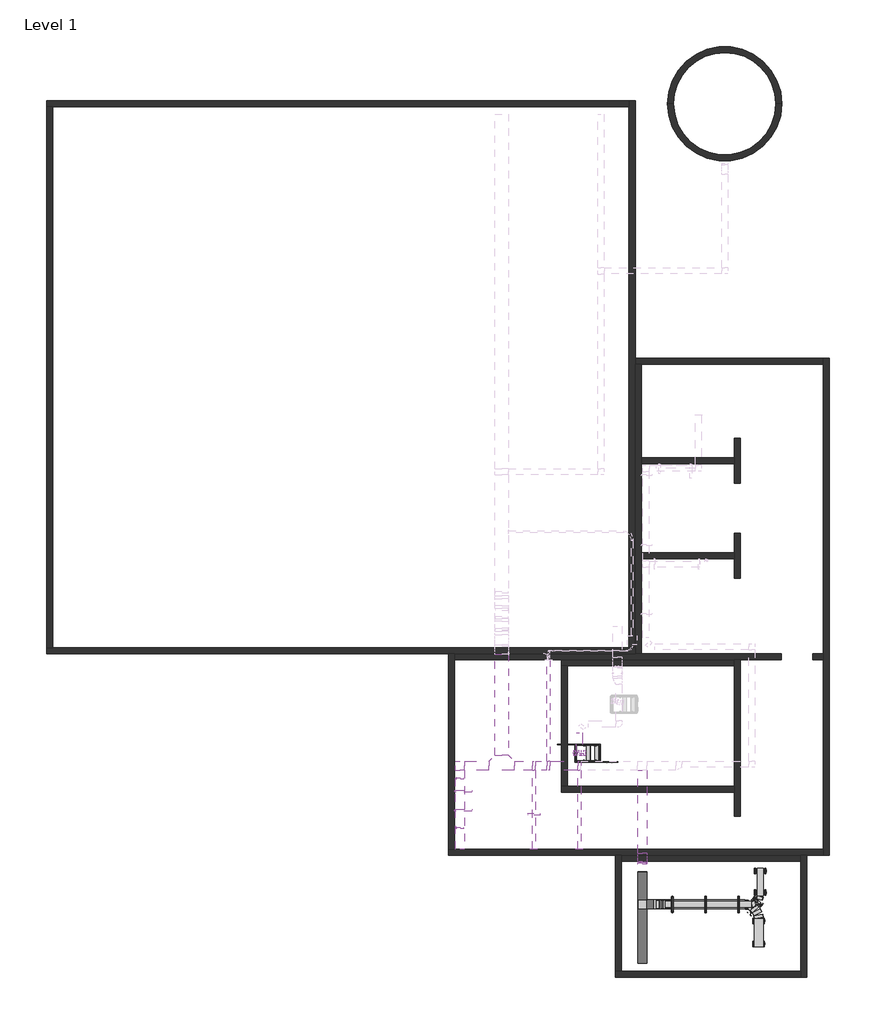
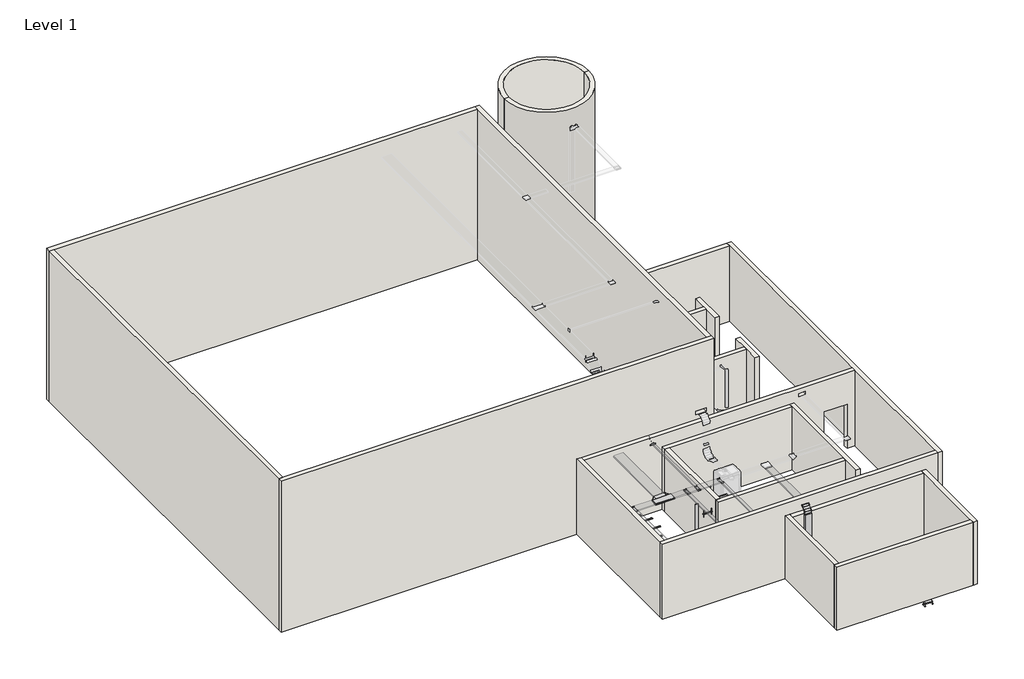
# One storey, part 1 of 2: 24 walls, 21 electric appliances, 20 cable carrier segments, 14 cable carrier fittings.
"""IFC4 building model written with IfcOpenShell, lengths in millimetres."""

from ifc_helpers import new_model, si_unit, point, frame, frame_2d, origin, origin_with_axes, place, context, project, spatial, polyline, circle_curve, trimmed, segment, composite_curve, outline, extrude, faceted_brep, transform, mapped, element, save
from components import cable_carrier_fitting_1d7cee85, cable_carrier_fitting_3a409af5, cable_carrier_fitting_f272e647, cable_carrier_fitting_cf0266b7, cable_carrier_fitting_ab9d27d4, cable_carrier_fitting_56b4656a, inside_b042d5d7, outside_59f74532, standard_9af1a614, electric_appliance_624bd925, standard_51789b41, standard_970344b8, standard_d35a98ab, standard_966c1fd9, standard_a21dcf37, standard_b50ad245, standard_c336d6d9, standard_08e3862d

model = new_model("IFC4")

# Units and contexts
model_context = context("Model", 3, world=origin())
ifc_project = project(units=[si_unit("LENGTHUNIT", "METRE", prefix="MILLI")], contexts=[model_context])

# Site, building, storey
site = spatial("IfcSite", under=ifc_project)
building = spatial("IfcBuilding", under=site)
storey = spatial("IfcBuildingStorey", under=building, Name="Level 1", Elevation=0.0)

# Cable carrier fittings
placement = place(None, origin())
cable_carrier_fitting_shape = cable_carrier_fitting_1d7cee85(model_context)
element("IfcCableCarrierFitting", 1, ObjectType="Tee-Cablofil-Wire_Mesh_Cable_Tray : EZ T 90 KIT", at=placement, inside=storey, context=model_context, shape_type="MappedRepresentation", body=[
    mapped(cable_carrier_fitting_shape, transform((2783.9308637, -7616.7461531, 1219.2), x_axis=(0.0, 1.0, 0.0), y_axis=(-1.0, 0.0, 0.0), z_axis=(0.0, 0.0, 1.0))),
])
cable_carrier_fitting_2_shape = cable_carrier_fitting_3a409af5(model_context)
element("IfcCableCarrierFitting", 2, ObjectType="Tee-Cablofil-Wire_Mesh_Cable_Tray : EZ T 90 KIT", at=placement, inside=storey, context=model_context, shape_type="MappedRepresentation", body=[
    mapped(cable_carrier_fitting_2_shape, transform((667.4791948, -2938.9704012, 3352.8), x_axis=(1.0, 0.0, 0.0), y_axis=(0.0, 1.0, 0.0), z_axis=(0.0, 0.0, 1.0))),
])
element("IfcCableCarrierFitting", 3, ObjectType="Tee-Cablofil-Wire_Mesh_Cable_Tray : EZ T 90 KIT", at=placement, inside=storey, context=model_context, shape_type="MappedRepresentation", body=[
    mapped(cable_carrier_fitting_2_shape, transform((-867.0453689, -2938.9704012, 3352.8), x_axis=(1.0, 0.0, 0.0), y_axis=(0.0, 1.0, 0.0), z_axis=(0.0, 0.0, 1.0))),
])
element("IfcCableCarrierFitting", 4, ObjectType="Tee-Cablofil-Wire_Mesh_Cable_Tray : EZ T 90 KIT", at=placement, inside=storey, context=model_context, shape_type="MappedRepresentation", body=[
    mapped(cable_carrier_fitting_2_shape, transform((-379.897722, -2938.9704012, 3352.8), x_axis=(-1.0, 0.0, 0.0), y_axis=(0.0, -1.0, 0.0), z_axis=(0.0, 0.0, 1.0))),
])
cable_carrier_fitting_3_shape = cable_carrier_fitting_f272e647(model_context)
element("IfcCableCarrierFitting", 5, ObjectType="Tee-Cablofil-Wire_Mesh_Cable_Tray : Y Junctions", at=placement, inside=storey, context=model_context, shape_type="MappedRepresentation", body=[
    mapped(cable_carrier_fitting_3_shape, transform((-1955.469197, -2938.9704012, 3352.8), x_axis=(-1.0, 0.0, 0.0), y_axis=(0.0, -1.0, 0.0), z_axis=(0.0, 0.0, 1.0))),
])
cable_carrier_fitting_4_shape = cable_carrier_fitting_cf0266b7(model_context)
element("IfcCableCarrierFitting", 6, ObjectType="Bend-Horizontal-Cablofil-Wire_Mesh_Cable_Tray : EZ T 90 KIT", at=placement, inside=storey, context=model_context, shape_type="MappedRepresentation", body=[
    mapped(cable_carrier_fitting_4_shape, transform((-3371.1208052, -2938.9704012, 3352.8), x_axis=(-1.0, 0.0, 0.0), y_axis=(0.0, -1.0, 0.0), z_axis=(0.0, 0.0, 1.0))),
])
cable_carrier_fitting_5_shape = cable_carrier_fitting_ab9d27d4(model_context)
element("IfcCableCarrierFitting", 7, ObjectType="Bend-Horizontal-Cablofil-Wire_Mesh_Cable_Tray : Faslock", at=placement, inside=storey, context=model_context, shape_type="MappedRepresentation", body=[
    mapped(cable_carrier_fitting_5_shape, transform((6768.8294107, -7616.7461531, -889.0), x_axis=(1.0, 0.0, 0.0), y_axis=(0.0, 1.0, 0.0), z_axis=(0.0, 0.0, 1.0))),
])
cable_carrier_fitting_6_shape = cable_carrier_fitting_56b4656a(model_context)
element("IfcCableCarrierFitting", 8, ObjectType="Bend-Horizontal-Cablofil-Wire_Mesh_Cable_Tray : Faslock", at=placement, inside=storey, context=model_context, shape_type="MappedRepresentation", body=[
    mapped(cable_carrier_fitting_6_shape, transform((6718.0294107, -7616.7461531, -990.6), x_axis=(0.0, 1.0, 0.0), y_axis=(-1.0, 0.0, 0.0), z_axis=(0.0, 0.0, 1.0))),
])
inside_shape = inside_b042d5d7(model_context)
element("IfcCableCarrierFitting", 9, ObjectType="Bend-Vertical-Cablofil-Wire_Mesh_Cable_Tray : Inside", at=placement, inside=storey, context=model_context, shape_type="MappedRepresentation", body=[
    mapped(inside_shape, transform((2783.9308637, -6238.6609985, 1219.2), x_axis=(0.0, 1.0, 0.0), y_axis=(0.0, 0.0, 1.0), z_axis=(1.0, 0.0, 0.0))),
])
element("IfcCableCarrierFitting", 10, ObjectType="Bend-Vertical-Cablofil-Wire_Mesh_Cable_Tray : Inside", at=placement, inside=storey, context=model_context, shape_type="MappedRepresentation", body=[
    mapped(inside_shape, transform((3517.6294107, -7616.7461531, -990.6), x_axis=(0.0, 0.0, -1.0), y_axis=(1.0, 0.0, 0.0), z_axis=(0.0, -1.0, 0.0))),
])
outside_shape = outside_59f74532(model_context)
element("IfcCableCarrierFitting", 11, ObjectType="Bend-Vertical-Cablofil-Wire_Mesh_Cable_Tray : Outside", at=placement, inside=storey, context=model_context, shape_type="MappedRepresentation", body=[
    mapped(outside_shape, transform((3517.6294107, -7616.7461531, 1219.2), x_axis=(1.0, 0.0, 0.0), y_axis=(0.0, 0.0, -1.0), z_axis=(0.0, 1.0, 0.0))),
])
element("IfcCableCarrierFitting", 12, ObjectType="Bend-Vertical-Cablofil-Wire_Mesh_Cable_Tray : Outside", at=placement, inside=storey, context=model_context, shape_type="MappedRepresentation", body=[
    mapped(outside_shape, transform((2783.9308637, -6238.6609985, 3352.8), x_axis=(0.0, -1.0, 0.0), y_axis=(0.0, 0.0, -1.0), z_axis=(1.0, 0.0, 0.0))),
])
standard_shape = standard_9af1a614(model_context)
element("IfcCableCarrierFitting", 13, ObjectType="End-Cablofil-Wire_Mesh_Cable_Tray : Standard", at=placement, inside=storey, context=model_context, shape_type="MappedRepresentation", body=[
    mapped(standard_shape, transform((-867.0453689, -5757.8717985, 3352.8), x_axis=(0.0, -1.0, 0.0), y_axis=(1.0, 0.0, 0.0), z_axis=(0.0, 0.0, 1.0))),
])
element("IfcCableCarrierFitting", 14, ObjectType="End-Cablofil-Wire_Mesh_Cable_Tray : Standard", at=placement, inside=storey, context=model_context, shape_type="MappedRepresentation", body=[
    mapped(standard_shape, transform((667.4791948, -5757.8717985, 3352.8), x_axis=(0.0, -1.0, 0.0), y_axis=(1.0, 0.0, 0.0), z_axis=(0.0, 0.0, 1.0))),
])

# Cable carrier segments
element("IfcCableCarrierSegment", 15, ObjectType="Cable_Tray-Wire_Mesh-Cablofil", at=placement, inside=storey, context=model_context, shape_type="SweptSolid", body=[
    extrude(outline(polyline([(-2387.269197, -2786.5704012), (-2387.269197, -3091.3704012), (-3215.5458052, -3091.3704012), (-3215.5458052, -2786.5704012), (-2387.269197, -2786.5704012)])), frame((0.0, 0.0, 3327.4), z_axis=(0.0, 0.0, 1.0), x_axis=(1.0, 0.0, 0.0)), (0.0, 0.0, 1.0), 50.8),
])
element("IfcCableCarrierSegment", 16, ObjectType="Cable_Tray-Wire_Mesh-Cablofil", at=placement, inside=storey, context=model_context, shape_type="SweptSolid", body=[
    extrude(outline(polyline([(2631.5308637, -3094.5454012), (2936.3308637, -3094.5454012), (2936.3308637, -5888.5243748), (2631.5308637, -5888.5243748), (2631.5308637, -3094.5454012)])), frame((0.0, 0.0, 3327.4), z_axis=(0.0, 0.0, 1.0), x_axis=(1.0, 0.0, 0.0)), (0.0, 0.0, 1.0), 50.8),
])
element("IfcCableCarrierSegment", 17, ObjectType="Cable_Tray-Wire_Mesh-Cablofil", at=placement, inside=storey, context=model_context, shape_type="SweptSolid", body=[
    extrude(outline(polyline([(2631.5308637, -7772.3211531), (2936.3308637, -7772.3211531), (2936.3308637, -9600.4861531), (2631.5308637, -9600.4861531), (2631.5308637, -7772.3211531)])), frame((0.0, 0.0, 1193.8), z_axis=(0.0, 0.0, 1.0), x_axis=(1.0, 0.0, 0.0)), (0.0, 0.0, 1.0), 50.8),
])
element("IfcCableCarrierSegment", 18, ObjectType="Cable_Tray-Wire_Mesh-Cablofil", at=placement, inside=storey, context=model_context, shape_type="SweptSolid", body=[
    extrude(outline(polyline([(2631.5308637, -6213.2609985), (2936.3308637, -6213.2609985), (2936.3308637, -6264.0609985), (2631.5308637, -6264.0609985), (2631.5308637, -6213.2609985)])), frame((0.0, 0.0, 1518.5366237), z_axis=(0.0, 0.0, 1.0), x_axis=(1.0, 0.0, 0.0)), (0.0, 0.0, 1.0), 1484.1267527),
])
element("IfcCableCarrierSegment", 19, ObjectType="Cable_Tray-Wire_Mesh-Cablofil", at=placement, inside=storey, context=model_context, shape_type="SweptSolid", body=[
    extrude(outline(polyline([(2939.5058637, -7769.1461531), (2939.5058637, -7464.3461531), (3167.4927871, -7464.3461531), (3167.4927871, -7769.1461531), (2939.5058637, -7769.1461531)])), frame((0.0, 0.0, 1193.8), z_axis=(0.0, 0.0, 1.0), x_axis=(1.0, 0.0, 0.0)), (0.0, 0.0, 1.0), 50.8),
])
element("IfcCableCarrierSegment", 20, ObjectType="Cable_Tray-Wire_Mesh-Cablofil", at=placement, inside=storey, context=model_context, shape_type="SweptSolid", body=[
    extrude(outline(polyline([(2631.5308637, -6537.9976221), (2936.3308637, -6537.9976221), (2936.3308637, -7461.1711531), (2631.5308637, -7461.1711531), (2631.5308637, -6537.9976221)])), frame((0.0, 0.0, 1193.8), z_axis=(0.0, 0.0, 1.0), x_axis=(1.0, 0.0, 0.0)), (0.0, 0.0, 1.0), 50.8),
])
element("IfcCableCarrierSegment", 21, ObjectType="Cable_Tray-Wire_Mesh-Cablofil", at=placement, inside=storey, context=model_context, shape_type="SweptSolid", body=[
    extrude(outline(polyline([(3492.2294107, -7769.1461531), (3492.2294107, -7464.3461531), (3543.0294107, -7464.3461531), (3543.0294107, -7769.1461531), (3492.2294107, -7769.1461531)])), frame((0.0, 0.0, -691.2633763), z_axis=(0.0, 0.0, 1.0), x_axis=(1.0, 0.0, 0.0)), (0.0, 0.0, 1.0), 1560.3267527),
])
element("IfcCableCarrierSegment", 22, ObjectType="Cable_Tray-Wire_Mesh-Cablofil", at=placement, inside=storey, context=model_context, shape_type="SweptSolid", body=[
    extrude(outline(polyline([(565.8791948, -1828.5528087), (769.0791948, -1828.5528087), (769.0791948, -2603.8266808), (565.8791948, -2603.8266808), (565.8791948, -1828.5528087)])), frame((0.0, 0.0, 2139.95), z_axis=(0.0, 0.0, 1.0), x_axis=(1.0, 0.0, 0.0)), (0.0, 0.0, 1.0), 50.8),
])
element("IfcCableCarrierSegment", 23, ObjectType="Cable_Tray-Wire_Mesh-Cablofil", at=placement, inside=storey, context=model_context, shape_type="SweptSolid", body=[
    extrude(outline(polyline([(-3523.5208052, -3094.5454012), (-3218.7208052, -3094.5454012), (-3218.7208052, -5760.3609985), (-3523.5208052, -5760.3609985), (-3523.5208052, -3094.5454012)])), frame((0.0, 0.0, 3327.4), z_axis=(0.0, 0.0, 1.0), x_axis=(1.0, 0.0, 0.0)), (0.0, 0.0, 1.0), 50.8),
])
element("IfcCableCarrierSegment", 24, ObjectType="Cable_Tray-Wire_Mesh-Cablofil", at=placement, inside=storey, context=model_context, shape_type="SweptSolid", body=[
    extrude(outline(polyline([(616.6791948, -3094.5454012), (718.2791948, -3094.5454012), (718.2791948, -5757.8717985), (616.6791948, -5757.8717985), (616.6791948, -3094.5454012)])), frame((0.0, 0.0, 3327.4), z_axis=(0.0, 0.0, 1.0), x_axis=(1.0, 0.0, 0.0)), (0.0, 0.0, 1.0), 50.8),
])
element("IfcCableCarrierSegment", 25, ObjectType="Cable_Tray-Wire_Mesh-Cablofil", at=placement, inside=storey, context=model_context, shape_type="SweptSolid", body=[
    extrude(outline(polyline([(-917.8453689, -3094.5454012), (-816.2453689, -3094.5454012), (-816.2453689, -5757.8717985), (-917.8453689, -5757.8717985), (-917.8453689, -3094.5454012)])), frame((0.0, 0.0, 3327.4), z_axis=(0.0, 0.0, 1.0), x_axis=(1.0, 0.0, 0.0)), (0.0, 0.0, 1.0), 50.8),
])
element("IfcCableCarrierSegment", 26, ObjectType="Cable_Tray-Wire_Mesh-Cablofil", at=placement, inside=storey, context=model_context, shape_type="SweptSolid", body=[
    extrude(outline(polyline([(-433.872722, -2786.5704012), (-433.872722, -3091.3704012), (-813.0703689, -3091.3704012), (-813.0703689, -2786.5704012), (-433.872722, -2786.5704012)])), frame((0.0, 0.0, 3327.4), z_axis=(0.0, 0.0, 1.0), x_axis=(1.0, 0.0, 0.0)), (0.0, 0.0, 1.0), 50.8),
])
element("IfcCableCarrierSegment", 27, ObjectType="Cable_Tray-Wire_Mesh-Cablofil", at=placement, inside=storey, context=model_context, shape_type="SweptSolid", body=[
    extrude(outline(polyline([(-1726.869197, -2583.3704012), (-2184.069197, -2583.3704012), (-2184.069197, 823.7023779), (-1726.869197, 823.7023779), (-1726.869197, -2583.3704012)])), frame((0.0, 0.0, 3327.4), z_axis=(0.0, 0.0, 1.0), x_axis=(1.0, 0.0, 0.0)), (0.0, 0.0, 1.0), 50.8),
])
element("IfcCableCarrierSegment", 28, ObjectType="Cable_Tray-Wire_Mesh-Cablofil", at=placement, inside=storey, context=model_context, shape_type="SweptSolid", body=[
    extrude(outline(polyline([(-921.0203689, -2786.5704012), (-921.0203689, -3091.3704012), (-1523.669197, -3091.3704012), (-1523.669197, -2786.5704012), (-921.0203689, -2786.5704012)])), frame((0.0, 0.0, 3327.4), z_axis=(0.0, 0.0, 1.0), x_axis=(1.0, 0.0, 0.0)), (0.0, 0.0, 1.0), 50.8),
])
element("IfcCableCarrierSegment", 29, ObjectType="Cable_Tray-Wire_Mesh-Cablofil", at=placement, inside=storey, context=model_context, shape_type="SweptSolid", body=[
    extrude(outline(polyline([(3564.0714597, -7718.3461531), (3564.0714597, -7515.1461531), (6470.9532828, -7515.1461531), (6470.9532828, -7718.3461531), (3564.0714597, -7718.3461531)])), frame((0.0, 0.0, -914.4), z_axis=(0.0, 0.0, 1.0), x_axis=(1.0, 0.0, 0.0)), (0.0, 0.0, 1.0), 50.8),
])
element("IfcCableCarrierSegment", 30, ObjectType="Cable_Tray-Wire_Mesh-Cablofil", at=placement, inside=storey, context=model_context, shape_type="SweptSolid", body=[
    extrude(outline(polyline([(6870.4294107, -7318.8700252), (6667.2294107, -7318.8700252), (6667.2294107, -6397.5461531), (6870.4294107, -6397.5461531), (6870.4294107, -7318.8700252)])), frame((0.0, 0.0, -914.4), z_axis=(0.0, 0.0, 1.0), x_axis=(1.0, 0.0, 0.0)), (0.0, 0.0, 1.0), 50.8),
])
element("IfcCableCarrierSegment", 31, ObjectType="Cable_Tray-Wire_Mesh-Cablofil", at=placement, inside=storey, context=model_context, shape_type="SweptSolid", body=[
    extrude(outline(polyline([(3816.9660344, -7769.1461531), (3816.9660344, -7464.3461531), (6240.8927871, -7464.3461531), (6240.8927871, -7769.1461531), (3816.9660344, -7769.1461531)])), frame((0.0, 0.0, -1016.0), z_axis=(0.0, 0.0, 1.0), x_axis=(1.0, 0.0, 0.0)), (0.0, 0.0, 1.0), 50.8),
])
element("IfcCableCarrierSegment", 32, ObjectType="Cable_Tray-Wire_Mesh-Cablofil", at=placement, inside=storey, context=model_context, shape_type="SweptSolid", body=[
    extrude(outline(polyline([(6565.6294107, -8093.8827767), (6870.4294107, -8093.8827767), (6870.4294107, -9039.1461531), (6565.6294107, -9039.1461531), (6565.6294107, -8093.8827767)])), frame((0.0, 0.0, -1016.0), z_axis=(0.0, 0.0, 1.0), x_axis=(1.0, 0.0, 0.0)), (0.0, 0.0, 1.0), 50.8),
])
element("IfcCableCarrierSegment", 33, ObjectType="Cable_Tray-Wire_Mesh-Cablofil", at=placement, inside=storey, context=model_context, shape_type="SweptSolid", body=[
    extrude(outline(polyline([(-329.097722, -2783.3954012), (-430.697722, -2783.3954012), (-430.697722, 637.9498015), (-329.097722, 637.9498015), (-329.097722, -2783.3954012)])), frame((0.0, 0.0, 3327.4), z_axis=(0.0, 0.0, 1.0), x_axis=(1.0, 0.0, 0.0)), (0.0, 0.0, 1.0), 50.8),
])
element("IfcCableCarrierSegment", 34, ObjectType="Cable_Tray-Wire_Mesh-Cablofil", at=placement, inside=storey, context=model_context, shape_type="SweptSolid", body=[
    extrude(outline(polyline([(613.5041948, -2786.5704012), (613.5041948, -3091.3704012), (-325.922722, -3091.3704012), (-325.922722, -2786.5704012), (613.5041948, -2786.5704012)])), frame((0.0, 0.0, 3327.4), z_axis=(0.0, 0.0, 1.0), x_axis=(1.0, 0.0, 0.0)), (0.0, 0.0, 1.0), 50.8),
])

# Electric appliances
electric_appliance_shape = electric_appliance_624bd925(model_context)
element("IfcElectricAppliance", 35, ObjectType="Cabinet-Network-Ortronics-Preconfigured-Mighty_Mo : 42 RU x 24\" W x 36\" D", at=placement, inside=storey, context=model_context, shape_type="MappedRepresentation", body=[
    mapped(electric_appliance_shape, transform((945.7742948, -2514.1870302, 0.0), x_axis=(0.0, 1.0000000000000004, 0.0), y_axis=(-1.0000000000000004, 0.0, 0.0), z_axis=(0.0, 0.0, 1.0))),
])
standard_2_shape = standard_51789b41(model_context)
element("IfcElectricAppliance", 36, ObjectType="Bracket-Cross_Bar-Cablofil : Standard", at=placement, inside=storey, context=model_context, shape_type="MappedRepresentation", body=[
    mapped(standard_2_shape, transform((4919.9420629, -7616.7461531, -787.4), x_axis=(0.0, -1.0, 0.0), y_axis=(-1.0, 0.0, 0.0), z_axis=(0.0, 0.0, -1.0))),
])
element("IfcElectricAppliance", 37, ObjectType="Bracket-Cross_Bar-Cablofil : Standard", at=placement, inside=storey, context=model_context, shape_type="MappedRepresentation", body=[
    mapped(standard_2_shape, transform((3802.3420629, -7616.7461531, -787.4), x_axis=(0.0, -1.0, 0.0), y_axis=(-1.0, 0.0, 0.0), z_axis=(0.0, 0.0, -1.0))),
])
element("IfcElectricAppliance", 38, ObjectType="Bracket-Cross_Bar-Cablofil : Standard", at=placement, inside=storey, context=model_context, shape_type="MappedRepresentation", body=[
    mapped(standard_2_shape, transform((6037.5420629, -7616.7461531, -787.4), x_axis=(0.0, -1.0, 0.0), y_axis=(-1.0, 0.0, 0.0), z_axis=(0.0, 0.0, -1.0))),
])
standard_3_shape = standard_970344b8(model_context)
element("IfcElectricAppliance", 39, ObjectType="Bracket-Floor-Cablofil : Standard", at=placement, inside=storey, context=model_context, shape_type="MappedRepresentation", body=[
    mapped(standard_3_shape, transform((6676.8544202, -7524.7711626, -914.4), x_axis=(0.7071067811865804, 0.7071067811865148, 0.0), y_axis=(0.7071067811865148, -0.7071067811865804, 0.0), z_axis=(0.0, 0.0, -1.0))),
])
element("IfcElectricAppliance", 40, ObjectType="Bracket-Floor-Cablofil : Standard", at=placement, inside=storey, context=model_context, shape_type="MappedRepresentation", body=[
    mapped(standard_3_shape, transform((6768.8294107, -7217.573056, -914.4), x_axis=(0.0, 1.0, 0.0), y_axis=(1.0, 0.0, 0.0), z_axis=(0.0, 0.0, -1.0))),
])
element("IfcElectricAppliance", 41, ObjectType="Bracket-Floor-Cablofil : Standard", at=placement, inside=storey, context=model_context, shape_type="MappedRepresentation", body=[
    mapped(standard_3_shape, transform((6768.8294107, -6488.4838692, -914.4), x_axis=(0.0, 1.0, 0.0), y_axis=(1.0, 0.0, 0.0), z_axis=(0.0, 0.0, -1.0))),
])
element("IfcElectricAppliance", 42, ObjectType="Bracket-Floor-Cablofil : Standard", at=placement, inside=storey, context=model_context, shape_type="MappedRepresentation", body=[
    mapped(standard_3_shape, transform((6718.0294107, -8946.6298389, -1016.0), x_axis=(0.0, -1.0, 0.0), y_axis=(-1.0, 0.0, 0.0), z_axis=(0.0, 0.0, -1.0))),
])
element("IfcElectricAppliance", 43, ObjectType="Bracket-Floor-Cablofil : Standard", at=placement, inside=storey, context=model_context, shape_type="MappedRepresentation", body=[
    mapped(standard_3_shape, transform((6718.0294107, -8169.0850559, -1016.0), x_axis=(0.0, -1.0, 0.0), y_axis=(-1.0, 0.0, 0.0), z_axis=(0.0, 0.0, -1.0))),
])
element("IfcElectricAppliance", 44, ObjectType="Bracket-Floor-Cablofil : Standard", at=placement, inside=storey, context=model_context, shape_type="MappedRepresentation", body=[
    mapped(standard_3_shape, transform((6465.6803129, -7865.077457, -1122.7900905), x_axis=(-0.7071067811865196, 0.7071067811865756, 0.0), y_axis=(0.0, 0.0, -1.0), z_axis=(-0.7071067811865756, -0.7071067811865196, 0.0))),
])
element("IfcElectricAppliance", 45, ObjectType="Bracket-Floor-Cablofil : Standard", at=placement, inside=storey, context=model_context, shape_type="MappedRepresentation", body=[
    mapped(standard_3_shape, transform((667.4791948, -2502.2266808, 2139.95), x_axis=(0.0, -1.0, 0.0), y_axis=(-1.0, 0.0, 0.0), z_axis=(0.0, 0.0, -1.0))),
])
standard_4_shape = standard_d35a98ab(model_context)
element("IfcElectricAppliance", 46, ObjectType="Bracket-I-Cablofil-FAS_Profile-Trapeeze : Standard", at=placement, inside=storey, context=model_context, shape_type="MappedRepresentation", body=[
    mapped(standard_4_shape, transform((-867.0453689, -4567.1959985, 3327.4), x_axis=(-1.0, 0.0, 0.0), y_axis=(0.0, 1.0, 0.0), z_axis=(0.0, 0.0, -1.0))),
])
standard_5_shape = standard_966c1fd9(model_context)
element("IfcElectricAppliance", 47, ObjectType="Bracket-Wall-Cablofil : Standard", at=placement, inside=storey, context=model_context, shape_type="MappedRepresentation", body=[
    mapped(standard_5_shape, transform((2783.9308637, -6213.2609985, 2720.6807831), x_axis=(-1.0, 0.0, 0.0), y_axis=(0.0, 0.0, 1.0), z_axis=(0.0, 1.0, 0.0))),
])
standard_6_shape = standard_a21dcf37(model_context)
element("IfcElectricAppliance", 48, ObjectType="Bracket-Cross_Bar-Cablofil : Standard", at=placement, inside=storey, context=model_context, shape_type="MappedRepresentation", body=[
    mapped(standard_6_shape, transform((4919.9420629, -7616.7461531, -939.8), x_axis=(0.0, -1.0, 0.0), y_axis=(-1.0, 0.0, 0.0), z_axis=(0.0, 0.0, -1.0))),
])
element("IfcElectricAppliance", 49, ObjectType="Bracket-Cross_Bar-Cablofil : Standard", at=placement, inside=storey, context=model_context, shape_type="MappedRepresentation", body=[
    mapped(standard_6_shape, transform((3802.3420629, -7616.7461531, -939.8), x_axis=(0.0, -1.0, 0.0), y_axis=(-1.0, 0.0, 0.0), z_axis=(0.0, 0.0, -1.0))),
])
element("IfcElectricAppliance", 50, ObjectType="Bracket-Cross_Bar-Cablofil : Standard", at=placement, inside=storey, context=model_context, shape_type="MappedRepresentation", body=[
    mapped(standard_6_shape, transform((6037.5420629, -7616.7461531, -939.8), x_axis=(0.0, -1.0, 0.0), y_axis=(-1.0, 0.0, 0.0), z_axis=(0.0, 0.0, -1.0))),
])
standard_7_shape = standard_b50ad245(model_context)
element("IfcElectricAppliance", 51, ObjectType="Waterfall-Cablofil : Standard", at=placement, inside=storey, context=model_context, shape_type="MappedRepresentation", body=[
    mapped(standard_7_shape, transform((667.4791948, -2474.1872729, 2139.95), x_axis=(0.0, -1.0, 0.0), y_axis=(-1.0, 0.0, 0.0), z_axis=(0.0, 0.0, -1.0))),
])
standard_8_shape = standard_c336d6d9(model_context)
element("IfcElectricAppliance", 52, ObjectType="Bracket-L-Cablofil-Fas_Profile : Standard", at=placement, inside=storey, context=model_context, shape_type="MappedRepresentation", body=[
    mapped(standard_8_shape, transform((-3230.7808262, -3794.1493748, 3327.4), x_axis=(0.0, 1.0, 0.0), y_axis=(1.0, 0.0, 0.0), z_axis=(0.0, 0.0, -1.0))),
])
element("IfcElectricAppliance", 53, ObjectType="Bracket-L-Cablofil-Fas_Profile : Standard", at=placement, inside=storey, context=model_context, shape_type="MappedRepresentation", body=[
    mapped(standard_8_shape, transform((-3230.7808262, -4441.8493748, 3327.4), x_axis=(0.0, 1.0, 0.0), y_axis=(1.0, 0.0, 0.0), z_axis=(0.0, 0.0, -1.0))),
])
standard_9_shape = standard_08e3862d(model_context)
element("IfcElectricAppliance", 54, ObjectType="Bracket-L-Cablofil-Standard : Standard", at=placement, inside=storey, context=model_context, shape_type="MappedRepresentation", body=[
    mapped(standard_9_shape, transform((-3371.1208052, -5038.7493748, 3327.4), x_axis=(0.0, 1.0, 0.0), y_axis=(1.0, 0.0, 0.0), z_axis=(0.0, 0.0, -1.0))),
])
element("IfcElectricAppliance", 55, ObjectType="Bracket-L-Cablofil-Standard : Standard", at=placement, inside=storey, context=model_context, shape_type="MappedRepresentation", body=[
    mapped(standard_9_shape, transform((-3371.1208052, -3368.6993748, 3327.4), x_axis=(0.0, 1.0, 0.0), y_axis=(1.0, 0.0, 0.0), z_axis=(0.0, 0.0, -1.0))),
])

# Walls
element("IfcWall", 56, ObjectType="Generic - 8\"", at=placement, inside=storey, context=model_context, shape_type="Brep", body=[
    faceted_brep([(5899.8791948, 640.4390015, 0.0), (57.8791948, 640.4390015, 0.0), (57.8791948, 640.4390015, 3048.0), (5899.8791948, 640.4390015, 3048.0), (5899.8791948, 437.2390015, 0.0), (5899.8791948, 437.2390015, 3048.0), (261.0791948, 437.2390015, 3048.0), (57.8791948, 437.2390015, 3048.0), (57.8791948, 437.2390015, 0.0), (261.0791948, 437.2390015, 0.0)], [[[0, 1, 2, 3]], [[4, 5, 6, 7, 8, 9]], [[1, 0, 4, 9, 8]], [[3, 2, 7, 6, 5]], [[2, 1, 8, 7]], [[0, 3, 5, 4]]]),
])
element("IfcWall", 57, ObjectType="Generic - 8\"", at=placement, inside=storey, context=model_context, shape_type="Brep", body=[
    faceted_brep([(5899.8791948, 640.4390015, 0.0), (5899.8791948, 437.2390015, 0.0), (5899.8791948, -3626.7609985, 0.0), (5899.8791948, -3829.9609985, 0.0), (5899.8791948, -4642.7609985, 0.0), (5899.8791948, -4642.7609985, 3048.0), (5899.8791948, -3829.9609985, 3048.0), (5899.8791948, -3626.7609985, 3048.0), (5899.8791948, 437.2390015, 3048.0), (5899.8791948, 640.4390015, 3048.0), (6103.0791948, 640.4390015, 0.0), (6103.0791948, 640.4390015, 3048.0), (6103.0791948, -4642.7609985, 3048.0), (6103.0791948, -4642.7609985, 0.0)], [[[0, 1, 2, 3, 4, 5, 6, 7, 8, 9]], [[10, 11, 12, 13]], [[4, 3, 2, 1, 0, 10, 13]], [[5, 4, 13, 12]], [[9, 8, 7, 6, 5, 12, 11]], [[0, 9, 11, 10]]]),
])
element("IfcWall", 58, ObjectType="Generic - 8\"", at=placement, inside=storey, context=model_context, shape_type="Brep", body=[
    faceted_brep([(5899.8791948, -3626.7609985, 0.0), (261.0791948, -3626.7609985, 0.0), (57.8791948, -3626.7609985, 0.0), (57.8791948, -3626.7609985, 3048.0), (261.0791948, -3626.7609985, 3048.0), (5899.8791948, -3626.7609985, 3048.0), (5899.8791948, -3829.9609985, 0.0), (5899.8791948, -3829.9609985, 3048.0), (57.8791948, -3829.9609985, 3048.0), (57.8791948, -3829.9609985, 0.0)], [[[0, 1, 2, 3, 4, 5]], [[6, 7, 8, 9]], [[2, 1, 0, 6, 9]], [[5, 4, 3, 8, 7]], [[3, 2, 9, 8]], [[0, 5, 7, 6]]]),
])
element("IfcWall", 59, ObjectType="Generic - 8\"", at=placement, inside=storey, context=model_context, shape_type="SweptSolid", body=[
    extrude(outline(polyline([(261.0791948, 437.2390015), (261.0791948, -3626.7609985), (57.8791948, -3626.7609985), (57.8791948, 437.2390015), (261.0791948, 437.2390015)])), origin_with_axes(), (0.0, 0.0, 1.0), 3048.0),
])
element("IfcWall", 60, ObjectType="Generic - 8\"", at=placement, inside=storey, context=model_context, shape_type="Brep", body=[
    faceted_brep([(8897.0791948, 10800.4390015, 0.0), (8897.0791948, 10597.2390015, 0.0), (8897.0791948, 843.6390015, 0.0), (8897.0791948, 640.4390015, 0.0), (8897.0791948, -5760.3609985, 0.0), (8897.0791948, -5963.5609985, 0.0), (8897.0791948, -5963.5609985, 3657.6), (8897.0791948, -5760.3609985, 3657.6), (8897.0791948, 640.4390015, 3657.6), (8897.0791948, 843.6390015, 3657.6), (8897.0791948, 10597.2390015, 3657.6), (8897.0791948, 10800.4390015, 3657.6), (9100.2791948, 10800.4390015, 0.0), (9100.2791948, 10800.4390015, 3657.6), (9100.2791948, -5963.5609985, 3657.6), (9100.2791948, -5963.5609985, 0.0)], [[[0, 1, 2, 3, 4, 5, 6, 7, 8, 9, 10, 11]], [[12, 13, 14, 15]], [[5, 4, 3, 2, 1, 0, 12, 15]], [[11, 10, 9, 8, 7, 6, 14, 13]], [[6, 5, 15, 14]], [[0, 11, 13, 12]]]),
])
element("IfcWall", 61, ObjectType="Generic - 8\"", at=placement, inside=storey, context=model_context, shape_type="Brep", body=[
    faceted_brep([(8897.0791948, -5760.3609985, 0.0), (-3548.9208052, -5760.3609985, 0.0), (-3752.1208052, -5760.3609985, 0.0), (-3752.1208052, -5760.3609985, 3657.6), (-3548.9208052, -5760.3609985, 3657.6), (8897.0791948, -5760.3609985, 3657.6), (8897.0791948, -5963.5609985, 0.0), (8897.0791948, -5963.5609985, 3657.6), (-3752.1208052, -5963.5609985, 3657.6), (-3752.1208052, -5963.5609985, 0.0)], [[[0, 1, 2, 3, 4, 5]], [[6, 7, 8, 9]], [[2, 1, 0, 6, 9]], [[5, 4, 3, 8, 7]], [[0, 5, 7, 6]], [[3, 2, 9, 8]]]),
])
element("IfcWall", 62, ObjectType="Generic - 8\"", at=placement, inside=storey, context=model_context, shape_type="Brep", body=[
    faceted_brep([(-3548.9208052, -5760.3609985, 0.0), (-3548.9208052, 640.4390015, 0.0), (-3548.9208052, 843.6390015, 0.0), (-3548.9208052, 843.6390015, 3657.6), (-3548.9208052, 640.4390015, 3657.6), (-3548.9208052, -5760.3609985, 3657.6), (-3752.1208052, -5760.3609985, 0.0), (-3752.1208052, -5760.3609985, 3657.6), (-3752.1208052, 843.6390015, 3657.6), (-3752.1208052, 843.6390015, 0.0)], [[[0, 1, 2, 3, 4, 5]], [[6, 7, 8, 9]], [[2, 1, 0, 6, 9]], [[5, 4, 3, 8, 7]], [[0, 5, 7, 6]], [[3, 2, 9, 8]]]),
])
element("IfcWall", 63, ObjectType="Generic - 8\"", at=placement, inside=storey, context=model_context, shape_type="Brep", body=[
    faceted_brep([(8135.0791948, -5963.5609985, 0.0), (8135.0791948, -6166.7609985, 0.0), (8135.0791948, -9875.1609985, 0.0), (8135.0791948, -10078.3609985, 0.0), (8135.0791948, -10078.3609985, 3048.0), (8135.0791948, -9875.1609985, 3048.0), (8135.0791948, -6166.7609985, 3048.0), (8135.0791948, -5963.5609985, 3048.0), (8338.2791948, -5963.5609985, 0.0), (8338.2791948, -5963.5609985, 3048.0), (8338.2791948, -10078.3609985, 3048.0), (8338.2791948, -10078.3609985, 0.0)], [[[0, 1, 2, 3, 4, 5, 6, 7]], [[8, 9, 10, 11]], [[3, 2, 1, 0, 8, 11]], [[7, 6, 5, 4, 10, 9]], [[4, 3, 11, 10]], [[0, 7, 9, 8]]]),
])
element("IfcWall", 64, ObjectType="Generic - 8\"", at=placement, inside=storey, context=model_context, shape_type="Brep", body=[
    faceted_brep([(8135.0791948, -9875.1609985, 0.0), (2089.8791948, -9875.1609985, 0.0), (1886.6791948, -9875.1609985, 0.0), (1886.6791948, -9875.1609985, 3048.0), (2089.8791948, -9875.1609985, 3048.0), (8135.0791948, -9875.1609985, 3048.0), (8135.0791948, -10078.3609985, 0.0), (8135.0791948, -10078.3609985, 3048.0), (1886.6791948, -10078.3609985, 3048.0), (1886.6791948, -10078.3609985, 0.0)], [[[0, 1, 2, 3, 4, 5]], [[6, 7, 8, 9]], [[2, 1, 0, 6, 9]], [[5, 4, 3, 8, 7]], [[0, 5, 7, 6]], [[3, 2, 9, 8]]]),
])
element("IfcWall", 65, ObjectType="Generic - 8\"", at=placement, inside=storey, context=model_context, shape_type="Brep", body=[
    faceted_brep([(2089.8791948, -9875.1609985, 0.0), (2089.8791948, -6166.7609985, 0.0), (2089.8791948, -5963.5609985, 0.0), (2089.8791948, -5963.5609985, 3048.0), (2089.8791948, -6166.7609985, 3048.0), (2089.8791948, -9875.1609985, 3048.0), (1886.6791948, -9875.1609985, 0.0), (1886.6791948, -9875.1609985, 3048.0), (1886.6791948, -5963.5609985, 3048.0), (1886.6791948, -5963.5609985, 0.0)], [[[0, 1, 2, 3, 4, 5]], [[6, 7, 8, 9]], [[2, 1, 0, 6, 9]], [[5, 4, 3, 8, 7]], [[0, 5, 7, 6]], [[3, 2, 9, 8]]]),
])
element("IfcWall", 66, ObjectType="Generic - 8\"", at=placement, inside=storey, context=model_context, shape_type="SweptSolid", body=[
    extrude(outline(polyline([(8135.0791948, -6166.7609985), (2089.8791948, -6166.7609985), (2089.8791948, -5963.5609985), (8135.0791948, -5963.5609985), (8135.0791948, -6166.7609985)])), origin_with_axes(), (0.0, 0.0, 1.0), 3048.0),
])
element("IfcWall", 67, ObjectType="Generic - 8\"", at=placement, inside=storey, context=model_context, shape_type="Brep", body=[
    faceted_brep([(-3548.9208052, 640.4390015, 0.0), (7474.0266142, 640.4390015, 0.0), (7474.0266142, 640.4390015, 2133.6), (8540.8266142, 640.4390015, 2133.6), (8540.8266142, 640.4390015, 0.0), (8897.0791948, 640.4390015, 0.0), (8897.0791948, 640.4390015, 3657.6), (-3548.9208052, 640.4390015, 3657.6), (6633.0710894, 640.4390015, 3426.5463232), (6633.0710894, 640.4390015, 3280.4963232), (6321.9210894, 640.4390015, 3280.4963232), (6321.9210894, 640.4390015, 3426.5463232), (-3548.9208052, 843.6390015, 0.0), (-3548.9208052, 843.6390015, 3657.6), (2547.0791948, 843.6390015, 3657.6), (2750.2791948, 843.6390015, 3657.6), (8897.0791948, 843.6390015, 3657.6), (8897.0791948, 843.6390015, 0.0), (8540.8266142, 843.6390015, 0.0), (8540.8266142, 843.6390015, 2133.6), (7474.0266142, 843.6390015, 2133.6), (7474.0266142, 843.6390015, 0.0), (2750.2791948, 843.6390015, 0.0), (2547.0791948, 843.6390015, 0.0), (6633.0710894, 843.6390015, 3426.5463232), (6321.9210894, 843.6390015, 3426.5463232), (6321.9210894, 843.6390015, 3280.4963232), (6633.0710894, 843.6390015, 3280.4963232)], [[[0, 1, 2, 3, 4, 5, 6, 7], [8, 9, 10, 11]], [[12, 13, 14, 15, 16, 17, 18, 19, 20, 21, 22, 23], [24, 25, 26, 27]], [[0, 7, 13, 12]], [[6, 5, 17, 16]], [[1, 0, 12, 23, 22, 21]], [[7, 6, 16, 15, 14, 13]], [[2, 1, 21, 20]], [[3, 2, 20, 19]], [[4, 3, 19, 18]], [[5, 4, 18, 17]], [[9, 8, 24, 27]], [[10, 9, 27, 26]], [[11, 10, 26, 25]], [[8, 11, 25, 24]]]),
])
element("IfcWall", 68, ObjectType="Generic - 8\"", at=placement, inside=storey, context=model_context, shape_type="Brep", body=[
    faceted_brep([(2547.0791948, 1046.8390015, 0.0), (2343.8791948, 1046.8390015, 0.0), (-17112.5208052, 1046.8390015, 0.0), (-17315.7208052, 1046.8390015, 0.0), (-17315.7208052, 1046.8390015, 7315.2), (-17112.5208052, 1046.8390015, 7315.2), (2343.8791948, 1046.8390015, 7315.2), (2547.0791948, 1046.8390015, 7315.2), (2191.4791948, 1046.8390015, 4064.0), (1708.8791948, 1046.8390015, 4064.0), (1708.8791948, 1046.8390015, 3886.2), (2191.4791948, 1046.8390015, 3886.2), (-17315.7208052, 843.6390015, 0.0), (2547.0791948, 843.6390015, 0.0), (2547.0791948, 843.6390015, 7315.2), (-17315.7208052, 843.6390015, 7315.2), (1708.8791948, 843.6390015, 4064.0), (2191.4791948, 843.6390015, 4064.0), (2191.4791948, 843.6390015, 3886.2), (1708.8791948, 843.6390015, 3886.2)], [[[0, 1, 2, 3, 4, 5, 6, 7], [8, 9, 10, 11]], [[12, 13, 14, 15], [16, 17, 18, 19]], [[3, 2, 1, 0, 13, 12]], [[7, 6, 5, 4, 15, 14]], [[0, 7, 14, 13]], [[4, 3, 12, 15]], [[8, 17, 16, 9]], [[10, 19, 18, 11]], [[17, 8, 11, 18]], [[9, 16, 19, 10]]]),
])
element("IfcWall", 69, ObjectType="Generic - 8\"", at=placement, inside=storey, context=model_context, shape_type="Brep", body=[
    faceted_brep([(2343.8791948, 19487.2390015, 0.0), (2343.8791948, 19284.0390015, 0.0), (2343.8791948, 1046.8390015, 0.0), (2343.8791948, 1046.8390015, 7315.2), (2343.8791948, 19284.0390015, 7315.2), (2343.8791948, 19487.2390015, 7315.2), (2547.0791948, 19487.2390015, 0.0), (2547.0791948, 19487.2390015, 7315.2), (2547.0791948, 1046.8390015, 7315.2), (2547.0791948, 1046.8390015, 0.0), (2547.0791948, 4042.4174485, 0.0), (2547.0791948, 4245.6174485, 0.0)], [[[0, 1, 2, 3, 4, 5]], [[6, 7, 8, 9, 10, 11]], [[2, 1, 0, 6, 11, 10, 9]], [[5, 4, 3, 8, 7]], [[3, 2, 9, 8]], [[0, 5, 7, 6]]]),
])
element("IfcWall", 70, ObjectType="Generic - 8\"", at=placement, inside=storey, context=model_context, shape_type="Brep", body=[
    faceted_brep([(2547.0791948, 10597.2390015, 0.0), (2750.2791948, 10597.2390015, 0.0), (8897.0791948, 10597.2390015, 0.0), (8897.0791948, 10597.2390015, 3657.6), (2750.2791948, 10597.2390015, 3657.6), (2547.0791948, 10597.2390015, 3657.6), (2547.0791948, 10800.4390015, 0.0), (2547.0791948, 10800.4390015, 3657.6), (8897.0791948, 10800.4390015, 3657.6), (8897.0791948, 10800.4390015, 0.0)], [[[0, 1, 2, 3, 4, 5]], [[6, 7, 8, 9]], [[2, 1, 0, 6, 9]], [[5, 4, 3, 8, 7]], [[3, 2, 9, 8]], [[0, 5, 7, 6]]]),
])
element("IfcWall", 71, ObjectType="Generic - 8\"", at=placement, inside=storey, context=model_context, shape_type="SweptSolid", body=[
    extrude(outline(polyline([(0.0, 2750.2791948), (0.0, 5899.8791948), (3657.6, 5899.8791948), (3657.6, 2750.2791948), (0.0, 2750.2791948)]), holes=[polyline([(3427.5054882, 4843.5998103), (3275.1054882, 4843.5998103), (3275.1054882, 4519.7498103), (3427.5054882, 4519.7498103), (3427.5054882, 4843.5998103)])]), frame((0.0, 7244.4390015, 0.0), z_axis=(0.0, 1.0, 0.0), x_axis=(0.0, 0.0, 1.0)), (0.0, 0.0, 1.0), 203.2),
])
element("IfcWall", 72, ObjectType="Generic - 8\"", at=placement, inside=storey, context=model_context, shape_type="SweptSolid", body=[
    extrude(outline(polyline([(0.0, 2547.0791948), (0.0, 5899.8791948), (3657.6, 5899.8791948), (3657.6, 2547.0791948), (0.0, 2547.0791948)]), holes=[polyline([(3459.7287447, 3065.9770799), (3205.7287447, 3065.9770799), (3205.7287447, 2775.6791948), (3459.7287447, 2775.6791948), (3459.7287447, 3065.9770799)])]), frame((0.0, 4042.4174485, 0.0), z_axis=(0.0, 1.0, 0.0), x_axis=(0.0, 0.0, 1.0)), (0.0, 0.0, 1.0), 203.2),
])
element("IfcWall", 73, ObjectType="Generic - 8\"", at=placement, inside=storey, context=model_context, shape_type="Brep", body=[
    faceted_brep([(5899.8791948, 4906.0174485, 0.0), (5899.8791948, 4245.6174485, 0.0), (5899.8791948, 4042.4174485, 0.0), (5899.8791948, 3382.0174485, 0.0), (5899.8791948, 3382.0174485, 3657.6), (5899.8791948, 4042.4174485, 3657.6), (5899.8791948, 4245.6174485, 3657.6), (5899.8791948, 4906.0174485, 3657.6), (6103.0791948, 4906.0174485, 0.0), (6103.0791948, 4906.0174485, 3657.6), (6103.0791948, 3382.0174485, 3657.6), (6103.0791948, 3382.0174485, 0.0)], [[[0, 1, 2, 3, 4, 5, 6, 7]], [[8, 9, 10, 11]], [[3, 2, 1, 0, 8, 11]], [[4, 3, 11, 10]], [[7, 6, 5, 4, 10, 9]], [[0, 7, 9, 8]]]),
])
element("IfcWall", 74, ObjectType="Generic - 8\"", at=placement, inside=storey, context=model_context, shape_type="Brep", body=[
    faceted_brep([(5899.8791948, 8108.0390015, 0.0), (5899.8791948, 7447.6390015, 0.0), (5899.8791948, 7244.4390015, 0.0), (5899.8791948, 6584.0390015, 0.0), (5899.8791948, 6584.0390015, 3657.6), (5899.8791948, 7244.4390015, 3657.6), (5899.8791948, 7447.6390015, 3657.6), (5899.8791948, 8108.0390015, 3657.6), (6103.0791948, 8108.0390015, 0.0), (6103.0791948, 8108.0390015, 3657.6), (6103.0791948, 6584.0390015, 3657.6), (6103.0791948, 6584.0390015, 0.0)], [[[0, 1, 2, 3, 4, 5, 6, 7]], [[8, 9, 10, 11]], [[3, 2, 1, 0, 8, 11]], [[4, 3, 11, 10]], [[7, 6, 5, 4, 10, 9]], [[0, 7, 9, 8]]]),
])
element("IfcWall", 75, ObjectType="Generic - 8\"", at=placement, inside=storey, context=model_context, shape_type="Brep", body=[
    faceted_brep([(2343.8791948, 19487.2390015, 0.0), (-17315.7208052, 19487.2390015, 0.0), (-17315.7208052, 19487.2390015, 7315.2), (2343.8791948, 19487.2390015, 7315.2), (2343.8791948, 19284.0390015, 0.0), (2343.8791948, 19284.0390015, 7315.2), (-17112.5208052, 19284.0390015, 7315.2), (-17315.7208052, 19284.0390015, 7315.2), (-17315.7208052, 19284.0390015, 0.0), (-17112.5208052, 19284.0390015, 0.0)], [[[0, 1, 2, 3]], [[4, 5, 6, 7, 8, 9]], [[1, 0, 4, 9, 8]], [[3, 2, 7, 6, 5]], [[0, 3, 5, 4]], [[2, 1, 8, 7]]]),
])
element("IfcWall", 76, ObjectType="Generic - 8\"", at=placement, inside=storey, context=model_context, shape_type="SweptSolid", body=[
    extrude(outline(polyline([(-17315.7208052, 1046.8390015), (-17315.7208052, 19284.0390015), (-17112.5208052, 19284.0390015), (-17112.5208052, 1046.8390015), (-17315.7208052, 1046.8390015)])), origin_with_axes(), (0.0, 0.0, 1.0), 7315.2),
])
element("IfcWall", 77, ObjectType="Generic - 8\"", at=placement, inside=storey, context=model_context, shape_type="Brep", body=[
    faceted_brep([(2547.0791948, 10597.2390015, 0.0), (2547.0791948, 843.6390015, 0.0), (2547.0791948, 843.6390015, 3657.6), (2547.0791948, 10597.2390015, 3657.6), (2750.2791948, 10597.2390015, 0.0), (2750.2791948, 10597.2390015, 3657.6), (2750.2791948, 7447.6390015, 3657.6), (2750.2791948, 7244.4390015, 3657.6), (2750.2791948, 843.6390015, 3657.6), (2750.2791948, 843.6390015, 0.0), (2750.2791948, 7244.4390015, 0.0), (2750.2791948, 7447.6390015, 0.0)], [[[0, 1, 2, 3]], [[4, 5, 6, 7, 8, 9, 10, 11]], [[1, 0, 4, 11, 10, 9]], [[3, 2, 8, 7, 6, 5]], [[0, 3, 5, 4]], [[2, 1, 9, 8]]]),
])
element("IfcWall", 78, ObjectType="Generic - 8\"", at=placement, inside=storey, context=model_context, shape_type="SweptSolid", body=[
    extrude(outline(composite_curve([segment(polyline([(3842.4791948, 19385.6390015), (3639.2791948, 19385.6390015)]), True, "CONTINUOUS"), segment(trimmed(circle_curve(frame_2d((5569.6791948, 19385.6390015)), 1930.4), [point((3639.2791948, 19385.6390015))], [point((7500.0791948, 19385.6390015))], False, "CARTESIAN"), True, "CONTINUOUS"), segment(polyline([(7500.0791948, 19385.6390015), (7296.8791948, 19385.6390015)]), True, "CONTINUOUS"), segment(trimmed(circle_curve(frame_2d((5569.6791948, 19385.6390015)), 1727.2), [point((7296.8791948, 19385.6390015))], [point((3842.4791948, 19385.6390015))], True, "CARTESIAN"), True, "CONTINUOUS")], self_intersect=False)), origin_with_axes(), (0.0, 0.0, 1.0), 7315.2),
])
element("IfcWall", 79, ObjectType="Generic - 8\"", at=placement, inside=storey, context=model_context, shape_type="SweptSolid", body=[
    extrude(outline(composite_curve([segment(polyline([(7296.8791948, 19385.6390015), (7500.0791948, 19385.6390015)]), True, "CONTINUOUS"), segment(trimmed(circle_curve(frame_2d((5569.6791948, 19385.6390015)), 1930.4), [point((7500.0791948, 19385.6390015))], [point((3639.2791948, 19385.6390015))], False, "CARTESIAN"), True, "CONTINUOUS"), segment(polyline([(3639.2791948, 19385.6390015), (3842.4791948, 19385.6390015)]), True, "CONTINUOUS"), segment(trimmed(circle_curve(frame_2d((5569.6791948, 19385.6390015)), 1727.2), [point((3842.4791948, 19385.6390015))], [point((7296.8791948, 19385.6390015))], True, "CARTESIAN"), True, "CONTINUOUS")], self_intersect=False)), origin_with_axes(), (0.0, 0.0, 1.0), 7315.2),
])

save(model, "model.ifc")
